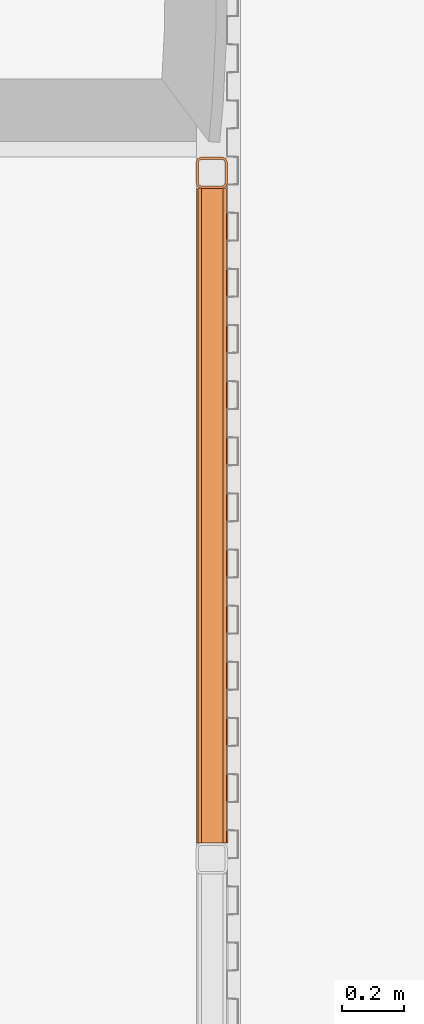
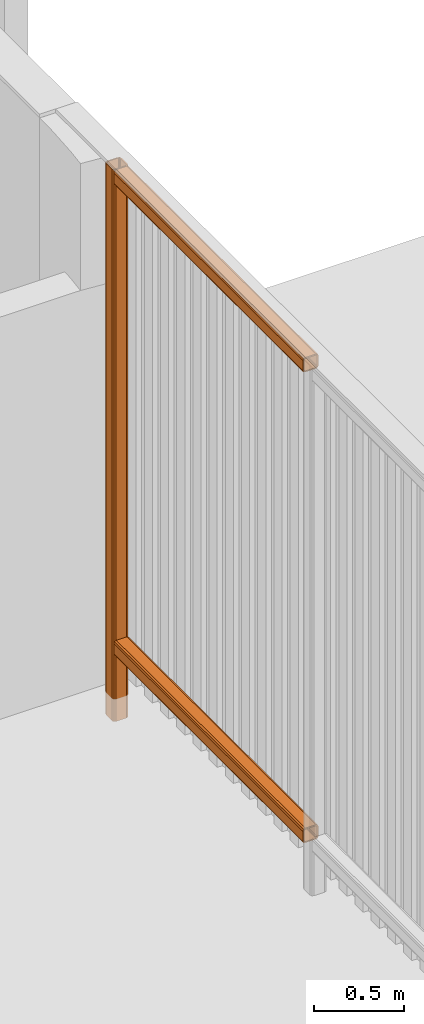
# One storey, part 18 of 22: 3 proxies.
"""IFC2X3 building model written with IfcOpenShell, lengths in millimetres."""

from ifc_helpers import new_model, entity, si_unit, converted_unit, derived_unit, money_unit, direction, frame, origin_with_axes, place, context, subcontext, project, spatial, faceted_brep, source, transform, mapped, material, type_object, type_shapes, element, save


model = new_model("IFC2X3")

# Units and contexts
model_context = context("Model", 3, precision=0.01, world=origin_with_axes(), true_north=direction((0.0, 1.0)))
body_context = subcontext(model_context, "Body", "Model", "MODEL_VIEW")
ifc_project = project(units=[si_unit("LENGTHUNIT", "METRE", prefix="MILLI"), si_unit("AREAUNIT", "SQUARE_METRE"), si_unit("VOLUMEUNIT", "CUBIC_METRE"), converted_unit("PLANEANGLEUNIT", "DEGREE", entity("IfcPlaneAngleMeasure", 0.0174532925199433), si_unit("PLANEANGLEUNIT", "RADIAN"), dimensions=[0, 0, 0, 0, 0, 0, 0]), money_unit("EUR"), converted_unit("TIMEUNIT", "Year", entity("IfcTimeMeasure", 31557600.0), si_unit("TIMEUNIT", "SECOND"), dimensions=[0, 0, 1, 0, 0, 0, 0]), si_unit("MASSUNIT", "GRAM", prefix="KILO"), si_unit("THERMODYNAMICTEMPERATUREUNIT", "DEGREE_CELSIUS"), si_unit("LUMINOUSINTENSITYUNIT", "LUMEN"), si_unit("ENERGYUNIT", "JOULE", prefix="MEGA"), derived_unit("THERMALCONDUCTANCEUNIT", [(si_unit("POWERUNIT", "WATT"), 1), (si_unit("LENGTHUNIT", "METRE"), -1), (si_unit("THERMODYNAMICTEMPERATUREUNIT", "KELVIN"), -1)]), derived_unit("SPECIFICHEATCAPACITYUNIT", [(si_unit("ENERGYUNIT", "JOULE"), 1), (si_unit("MASSUNIT", "GRAM", prefix="KILO"), -1), (si_unit("THERMODYNAMICTEMPERATUREUNIT", "KELVIN"), -1)]), derived_unit("MASSDENSITYUNIT", [(si_unit("MASSUNIT", "GRAM", prefix="KILO"), 1), (si_unit("VOLUMEUNIT", "CUBIC_METRE"), -1)])], contexts=[model_context])

# Site, building, storey
site_placement = place(None, origin_with_axes())
site = spatial("IfcSite", under=ifc_project, at=site_placement, Name="Site", CompositionType="ELEMENT")
building_placement = place(site_placement, origin_with_axes())
building = spatial("IfcBuilding", under=site, at=building_placement, Name="Naam gebouw", CompositionType="ELEMENT")
storey_placement = place(building_placement, frame((0.0, 0.0, 11150.0), z_axis=(0.0, 0.0, 1.0), x_axis=(1.0, 0.0, 0.0)))
storey = spatial("IfcBuildingStorey", under=building, at=storey_placement, Name="3e verdieping/dak N", CompositionType="ELEMENT", Elevation=11150.0)

# Proxies
ifc_material = material(Name="Metaal - Staal AFW")
building_element_proxy_type_1 = type_object("IfcBuildingElementProxyType", Name="Buis vk koudgev kolom 26", PredefinedType="NOTDEFINED")
shared_shape_1 = source(origin_with_axes(), body_context, "Body", "Brep", [
    faceted_brep([(-34.0, -50.0, 0.0), (34.0, -50.0, 0.0), (34.0, -50.0, 3740.0), (-34.0, -50.0, 3740.0), (-45.31370849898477, -45.31370849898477, 0.0), (-50.0, -34.0, 0.0), (-50.0, 34.0, 0.0), (-45.31370849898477, 45.31370849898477, 0.0), (-34.0, 50.0, 0.0), (34.0, 50.0, 0.0), (45.31370849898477, 45.31370849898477, 0.0), (50.0, 34.0, 0.0), (50.0, -34.0, 0.0), (45.31370849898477, -45.31370849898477, 0.0), (-34.00000000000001, -41.99999999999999, 0.0), (34.0, -42.0, 0.0), (39.65685424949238, -39.65685424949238, 0.0), (41.99999999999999, -34.00000000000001, 0.0), (42.0, 34.0, 0.0), (39.65685424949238, 39.65685424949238, 0.0), (34.00000000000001, 41.99999999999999, 0.0), (-34.0, 42.0, 0.0), (-39.65685424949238, 39.65685424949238, 0.0), (-41.99999999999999, 34.00000000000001, 0.0), (-42.0, -34.0, 0.0), (-39.65685424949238, -39.65685424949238, 0.0), (45.31370849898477, -45.31370849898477, 3740.0), (50.0, -34.0, 3740.0), (50.0, 34.0, 3740.0), (45.31370849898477, 45.31370849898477, 3740.0), (34.0, 50.0, 3740.0), (-34.0, 50.0, 3740.0), (-45.31370849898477, 45.31370849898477, 3740.0), (-50.0, 34.0, 3740.0), (-50.0, -34.0, 3740.0), (-45.31370849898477, -45.31370849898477, 3740.0), (-34.00000000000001, -41.99999999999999, 3740.0), (-39.65685424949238, -39.65685424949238, 3740.0), (-42.0, -34.0, 3740.0), (-41.99999999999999, 34.00000000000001, 3740.0), (-39.65685424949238, 39.65685424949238, 3740.0), (-34.0, 42.0, 3740.0), (34.00000000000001, 41.99999999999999, 3740.0), (39.65685424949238, 39.65685424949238, 3740.0), (42.0, 34.0, 3740.0), (41.99999999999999, -34.00000000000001, 3740.0), (39.65685424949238, -39.65685424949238, 3740.0), (34.0, -42.0, 3740.0)], [[[0, 1, 2, 3]], [[0, 4, 5, 6, 7, 8, 9, 10, 11, 12, 13, 1], [14, 15, 16, 17, 18, 19, 20, 21, 22, 23, 24, 25]], [[1, 13, 26, 2]], [[3, 2, 26, 27, 28, 29, 30, 31, 32, 33, 34, 35], [36, 37, 38, 39, 40, 41, 42, 43, 44, 45, 46, 47]], [[4, 0, 3, 35]], [[5, 4, 35, 34]], [[6, 5, 34, 33]], [[7, 6, 33, 32]], [[8, 7, 32, 31]], [[9, 8, 31, 30]], [[10, 9, 30, 29]], [[11, 10, 29, 28]], [[12, 11, 28, 27]], [[13, 12, 27, 26]], [[15, 14, 36, 47]], [[16, 15, 47, 46]], [[17, 16, 46, 45]], [[18, 17, 45, 44]], [[19, 18, 44, 43]], [[20, 19, 43, 42]], [[21, 20, 42, 41]], [[22, 21, 41, 40]], [[23, 22, 40, 39]], [[24, 23, 39, 38]], [[25, 24, 38, 37]], [[14, 25, 37, 36]]]),
])
type_shapes(building_element_proxy_type_1, [shared_shape_1])
proxy_placement = place(storey_placement, frame((24049.93442704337, 12694.60803964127, 0.0), z_axis=(0.0, 0.0, 1.0), x_axis=(0.0, 1.0, 0.0)))
element("IfcBuildingElementProxy", 1, at=proxy_placement, inside=storey, type_object=building_element_proxy_type_1, material=ifc_material, Name="_Boom-x", context=body_context, shape_type="MappedRepresentation", body=[
    mapped(shared_shape_1, transform((0.0, 0.0, 0.0))),
])
building_element_proxy_type_2 = type_object("IfcBuildingElementProxyType", Name="Buis vk koudgev balk 26", PredefinedType="NOTDEFINED")
shared_shape_2 = source(origin_with_axes(), body_context, "Body", "Brep", [
    faceted_brep([(0.0, -34.0, 0.0), (-2098.695614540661, -34.00000000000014, 0.0), (-2098.695614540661, 33.99999999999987, 0.0), (0.0, 34.0, 0.0), (0.0, -45.31370849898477, 4.686291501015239), (-2098.695614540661, -45.31370849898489, 4.68629150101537), (-2098.695614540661, -50.00000000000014, 16.00000000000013), (-2098.695614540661, -50.00000000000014, 84.00000000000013), (-2098.695614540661, -45.31370849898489, 95.31370849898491), (-2098.695614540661, -34.00000000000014, 100.0000000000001), (-2098.695614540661, 33.99999999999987, 100.0000000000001), (-2098.695614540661, 45.31370849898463, 95.31370849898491), (-2098.695614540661, 49.99999999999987, 84.00000000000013), (-2098.695614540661, 49.99999999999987, 16.00000000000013), (-2098.695614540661, 45.31370849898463, 4.68629150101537), (-2098.695614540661, -34.00000000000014, 8.000000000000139), (-2098.695614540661, 33.99999999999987, 8.000000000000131), (-2098.695614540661, 39.65685424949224, 10.34314575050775), (-2098.695614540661, 41.99999999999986, 16.00000000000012), (-2098.695614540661, 41.99999999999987, 84.00000000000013), (-2098.695614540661, 39.65685424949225, 89.65685424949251), (-2098.695614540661, 33.99999999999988, 92.00000000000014), (-2098.695614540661, -34.00000000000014, 92.00000000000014), (-2098.695614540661, -39.65685424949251, 89.65685424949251), (-2098.695614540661, -42.00000000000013, 84.00000000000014), (-2098.695614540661, -42.00000000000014, 16.00000000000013), (-2098.695614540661, -39.65685424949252, 10.34314575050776), (0.0, 45.31370849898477, 4.686291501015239), (0.0, 50.0, 16.0), (0.0, 50.0, 84.0), (0.0, 45.31370849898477, 95.31370849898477), (0.0, 34.0, 100.0), (0.0, -34.0, 100.0), (0.0, -45.31370849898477, 95.31370849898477), (0.0, -50.0, 84.0), (0.0, -50.0, 16.0), (0.0, -34.00000000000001, 8.000000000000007), (0.0, -39.65685424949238, 10.34314575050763), (0.0, -42.0, 16.0), (0.0, -41.99999999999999, 84.00000000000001), (0.0, -39.65685424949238, 89.65685424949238), (0.0, -34.0, 92.0), (0.0, 34.00000000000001, 92.0), (0.0, 39.65685424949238, 89.65685424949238), (0.0, 42.0, 84.0), (0.0, 41.99999999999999, 15.99999999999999), (0.0, 39.65685424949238, 10.34314575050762), (0.0, 34.0, 8.0)], [[[0, 1, 2, 3]], [[4, 5, 1, 0]], [[1, 5, 6, 7, 8, 9, 10, 11, 12, 13, 14, 2], [15, 16, 17, 18, 19, 20, 21, 22, 23, 24, 25, 26]], [[3, 2, 14, 27]], [[0, 3, 27, 28, 29, 30, 31, 32, 33, 34, 35, 4], [36, 37, 38, 39, 40, 41, 42, 43, 44, 45, 46, 47]], [[35, 6, 5, 4]], [[34, 7, 6, 35]], [[33, 8, 7, 34]], [[32, 9, 8, 33]], [[31, 10, 9, 32]], [[30, 11, 10, 31]], [[29, 12, 11, 30]], [[28, 13, 12, 29]], [[27, 14, 13, 28]], [[47, 16, 15, 36]], [[46, 17, 16, 47]], [[45, 18, 17, 46]], [[44, 19, 18, 45]], [[43, 20, 19, 44]], [[42, 21, 20, 43]], [[41, 22, 21, 42]], [[40, 23, 22, 41]], [[39, 24, 23, 40]], [[38, 25, 24, 39]], [[37, 26, 25, 38]], [[36, 15, 26, 37]]]),
])
type_shapes(building_element_proxy_type_2, [shared_shape_2])
for number, where, z_axis, x_axis, name in (
    (2, (24051.956323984, 12644.60803964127, 3640.0), (0.0, 0.0, 1.0), (0.0, 1.0, 0.0), "_Boom-x"),
    (3, (24051.956323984, 12644.60803964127, 450.0000000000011), (0.0, 0.0, 1.0), (0.0, 1.0, 0.0), "_Boom-x"),
):
    element("IfcBuildingElementProxy", number, at=place(storey_placement, frame(where, z_axis=z_axis, x_axis=x_axis)), inside=storey, type_object=building_element_proxy_type_2, material=ifc_material, Name=name, context=body_context, shape_type="MappedRepresentation", body=[
        mapped(shared_shape_2, transform((0.0, 0.0, 0.0))),
    ])

save(model, "model.ifc")
